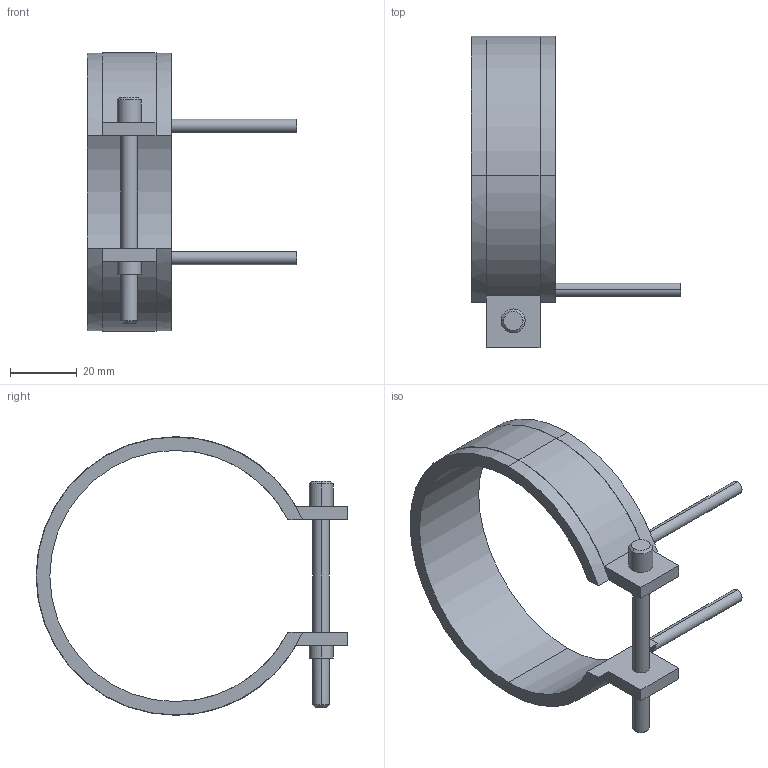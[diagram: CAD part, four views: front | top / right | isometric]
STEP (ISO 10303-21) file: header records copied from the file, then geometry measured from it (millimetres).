
FILE_DESCRIPTION(('CATIA V5 STEP Exchange'),'2;1');
FILE_NAME('C:\Users\Utente\Desktop\IO LAVORO\3D X SITO CF\X SITO\PLASTICA\RF2\14075025.stp','2021-04-03T08:46:11+00:00',('none'),('none'),'CATIA Version 5 Release 20 GA (IN-10)','CATIA V5 STEP AP203','none');
FILE_SCHEMA(('CONFIG_CONTROL_DESIGN'));
Length unit declared in the file: millimetre
Products named in the file (1): 14075025
Bounding box: 62.5 x 93.1 x 83.2 mm (x, y, z)
Volume: 25893.7 mm3; surface area: 15701.3 mm2
Topology: 1 solids, 1 shells, 45 faces, 116 edges, 76 vertices
Faces by surface type: cylinder 24, plane 17, cone 4
Entity records: 1406 total; most frequent: CARTESIAN_POINT 280, ORIENTED_EDGE 232, DIRECTION 196, EDGE_CURVE 116, AXIS2_PLACEMENT_3D 104, VERTEX_POINT 76, CIRCLE 62, VECTOR 52
